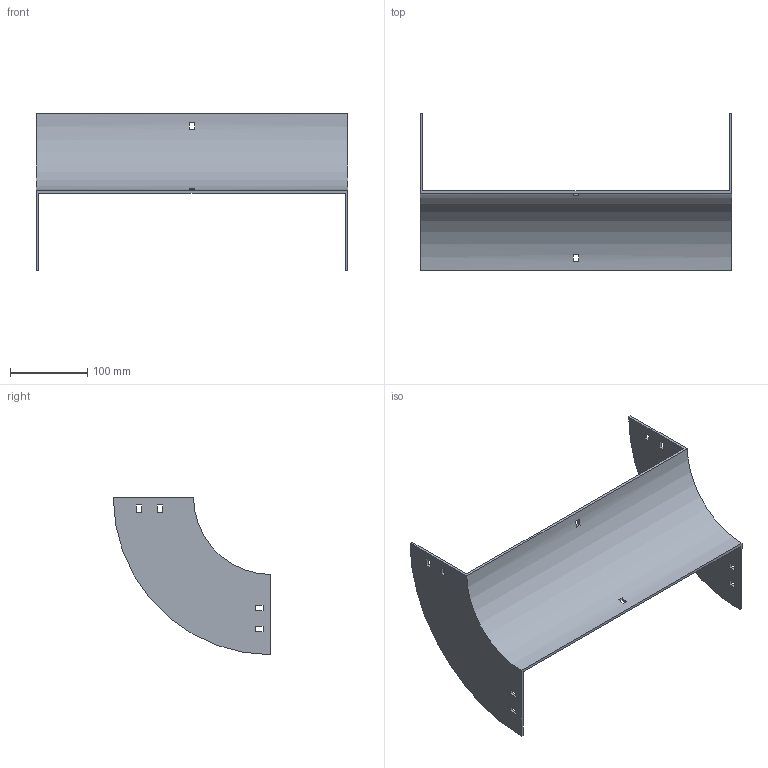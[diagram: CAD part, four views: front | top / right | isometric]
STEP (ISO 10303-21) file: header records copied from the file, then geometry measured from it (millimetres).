
FILE_DESCRIPTION (( 'STEP AP214' ), '1' );
FILE_NAME ('33B1D400.step', '2025-02-21T09:30:40', ( '' ), ( '' ), 'SwSTEP 2.0', 'SolidWorks 2023', '' );
FILE_SCHEMA (( 'AUTOMOTIVE_DESIGN' ));
Length unit declared in the file: millimetre
Products named in the file (1): 33B1D400
Bounding box: 404 x 204 x 204 mm (x, y, z)
Volume: 393524.6 mm3; surface area: 232502.1 mm2
Topology: 1 solids, 1 shells, 50 faces, 144 edges, 96 vertices
Faces by surface type: plane 46, cylinder 4
Entity records: 1687 total; most frequent: CARTESIAN_POINT 291, ORIENTED_EDGE 288, DIRECTION 262, EDGE_CURVE 144, LINE 128, VECTOR 128, VERTEX_POINT 96, EDGE_LOOP 70
